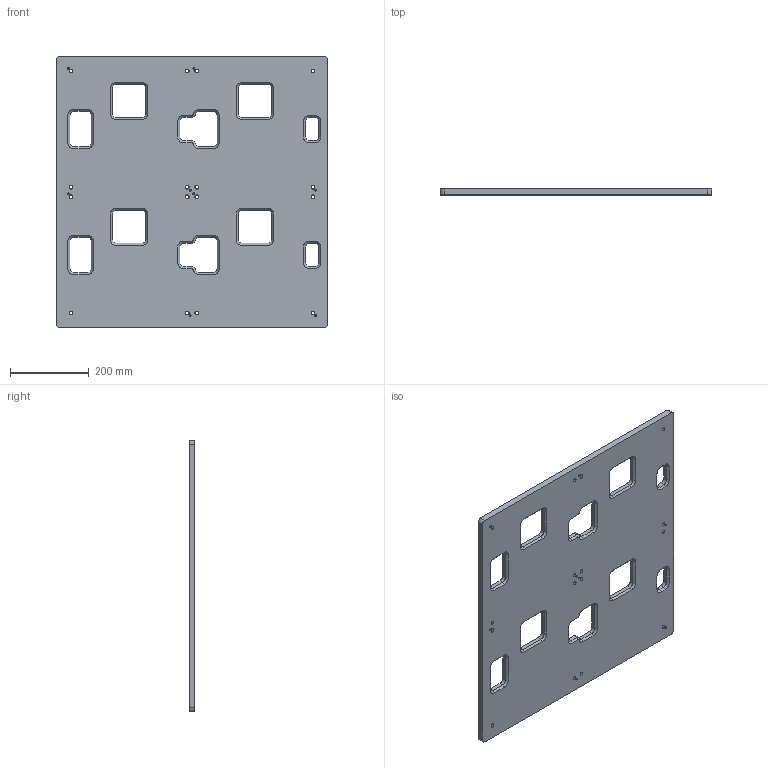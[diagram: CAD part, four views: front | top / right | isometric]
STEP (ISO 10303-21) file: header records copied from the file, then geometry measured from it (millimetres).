
FILE_DESCRIPTION (( 'STEP AP214' ), '1' );
FILE_NAME ('S4-AS-04.06-Rev1, Flyway Mounting Plate Example 2X2, Through Hole Option.STEP', '2025-08-20T22:45:01', ( '' ), ( '' ), 'SwSTEP 2.0', 'SolidWorks 2022', '' );
FILE_SCHEMA (( 'AUTOMOTIVE_DESIGN' ));
Length unit declared in the file: millimetre
Products named in the file (1): S4-AS-04.06-Rev1, Flyway Mounting Plate Example 2X2, Through Hole Option
Bounding box: 690 x 15 x 690 mm (x, y, z)
Volume: 6235046.6 mm3; surface area: 920440.3 mm2
Topology: 1 solids, 1 shells, 416 faces, 1100 edges, 692 vertices
Faces by surface type: plane 236, cylinder 100, cone 80
Entity records: 12937 total; most frequent: DIRECTION 2214, CARTESIAN_POINT 2209, ORIENTED_EDGE 2200, EDGE_CURVE 1100, LINE 820, VECTOR 820, AXIS2_PLACEMENT_3D 697, VERTEX_POINT 692
